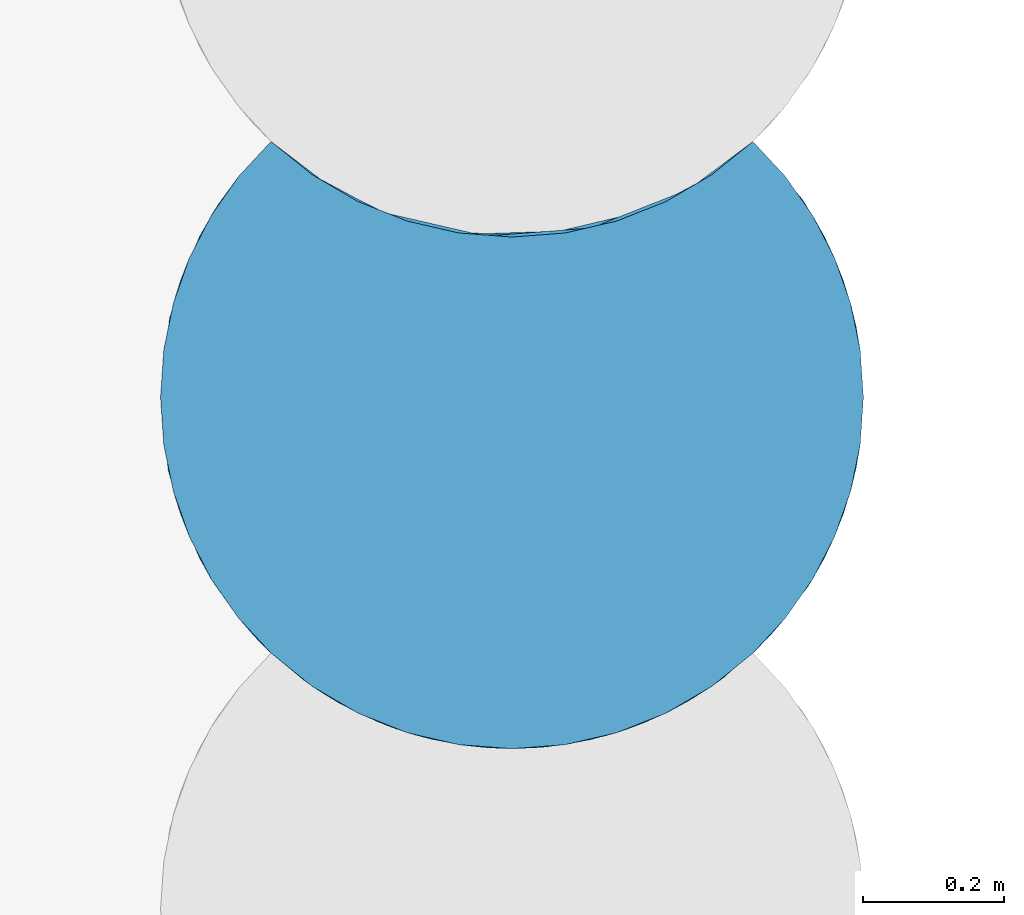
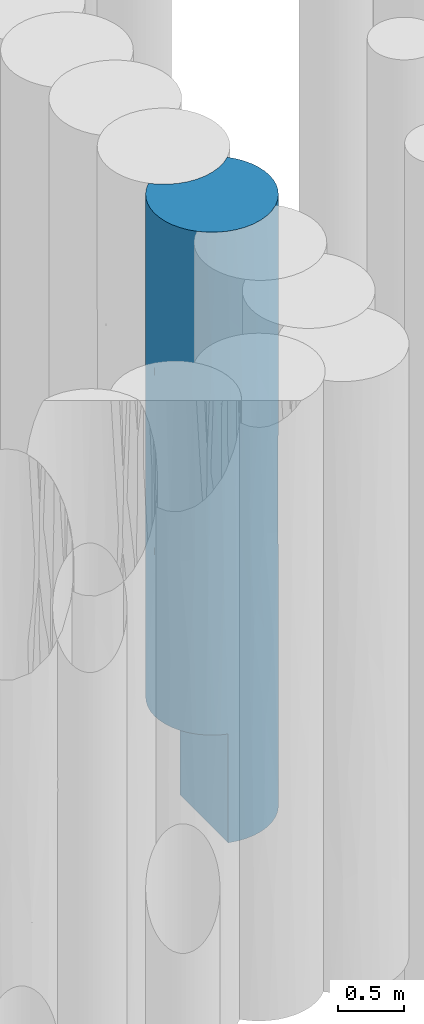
# One storey, part 54 of 104: 1 pile.
"""IFC2X3 building model written with IfcOpenShell, lengths in millimetres."""

import ifcopenshell
import ifcopenshell.guid

model = None  # the IFC model being written
_history = None  # IfcOwnerHistory: only IFC2X3 demands one
_inside = {}  # id of a spatial element -> (the spatial element, [elements in it])
_under = {}  # id of a project, library or spatial element -> (it, [spatial elements below it])
_declared = {}  # id of a project -> (the project, [libraries it declares])
_typed = {}  # id of a type object -> (the type object, [elements of that type])
_made_of = {}  # id of a material, layer set ... -> (it, [elements and type objects made of it])


def new_model(schema):
    """Start an empty IFC model of exactly this schema.

    Asked for "IFC4X3", IfcOpenShell would pick the latest addendum, in which some entities
    have other attributes; the version numbers below select the first issue.
    IFC2X3 requires an IfcOwnerHistory on every rooted entity: one is made here for all.
    """
    global model, _history
    if schema == "IFC4X3":
        model = ifcopenshell.file(schema_version=(4, 3, 0, 0))
    else:
        model = ifcopenshell.file(schema=schema)
    _inside.clear()
    _under.clear()
    _declared.clear()
    _typed.clear()
    _made_of.clear()
    _history = None
    if model.schema == "IFC2X3":
        org = make("IfcOrganization", Name="unknown")
        user = make(
            "IfcPersonAndOrganization",
            ThePerson=make("IfcPerson", FamilyName="unknown"),
            TheOrganization=org,
        )
        app = make(
            "IfcApplication",
            ApplicationDeveloper=org,
            Version="unknown",
            ApplicationFullName="unknown",
            ApplicationIdentifier="unknown",
        )
        _history = make(
            "IfcOwnerHistory",
            OwningUser=user,
            OwningApplication=app,
            ChangeAction="ADDED",
            CreationDate=0,
        )
    return model


def make(cls, **values):
    """One entity of the class cls with the attributes given. An attribute that is None is left unset."""
    return model.create_entity(
        cls, **{name: value for name, value in values.items() if value is not None}
    )


def entity(cls, *values):
    """Any entity or typed value of the class cls, its attributes in the order of the schema. None: left unset."""
    e = model.create_entity(cls)
    for i, value in enumerate(values):
        if value is not None:
            e[i] = value
    return e


def rooted(cls, **values):
    """An entity with a GlobalId (a new one), such as an element, a storey or a relation."""
    return make(cls, GlobalId=ifcopenshell.guid.new(), OwnerHistory=_history, **values)


def si_unit(unit_type, name, prefix=None):
    """IfcSIUnit, for example si_unit("LENGTHUNIT", "METRE", prefix="MILLI")."""
    return make("IfcSIUnit", UnitType=unit_type, Prefix=prefix, Name=name)


def converted_unit(unit_type, name, factor, base, dimensions=None, offset=None):
    """IfcConversionBasedUnit, such as the inch: factor (a typed value) times the base unit."""
    return make(
        "IfcConversionBasedUnit"
        if offset is None
        else "IfcConversionBasedUnitWithOffset",
        ConversionOffset=offset,
        Dimensions=None
        if dimensions is None
        else entity("IfcDimensionalExponents", *dimensions),
        UnitType=unit_type,
        Name=name,
        ConversionFactor=make(
            "IfcMeasureWithUnit", ValueComponent=factor, UnitComponent=base
        ),
    )


def derived_unit(unit_type, elements):
    """IfcDerivedUnit: a product of units, each with its exponent."""
    return make(
        "IfcDerivedUnit",
        Elements=[
            make("IfcDerivedUnitElement", Unit=unit, Exponent=power)
            for unit, power in elements
        ],
        UnitType=unit_type,
    )


def assignment(units):
    """IfcUnitAssignment: the units of a project."""
    return None if units is None else make("IfcUnitAssignment", Units=units)


def point(xyz):
    """IfcCartesianPoint."""
    return None if xyz is None else make("IfcCartesianPoint", Coordinates=xyz)


def direction(xyz):
    """IfcDirection."""
    return None if xyz is None else make("IfcDirection", DirectionRatios=xyz)


def frame(location, z_axis=None, x_axis=None):
    """IfcAxis2Placement3D, a coordinate frame: its origin and axes. An axis left out is left unset."""
    return make(
        "IfcAxis2Placement3D",
        Location=point(location),
        Axis=direction(z_axis),
        RefDirection=direction(x_axis),
    )


def origin():
    """The frame at (0, 0, 0) with its axes left unset."""
    return frame((0.0, 0.0, 0.0))


def place(relative_to, where):
    """IfcLocalPlacement: puts the frame where relative to a parent placement (None: the world)."""
    return make(
        "IfcLocalPlacement", PlacementRelTo=relative_to, RelativePlacement=where
    )


def context(
    kind, dimensions, precision=None, world=None, true_north=None, identifier=None
):
    """IfcGeometricRepresentationContext, for example the 3D "Model" context."""
    return make(
        "IfcGeometricRepresentationContext",
        ContextIdentifier=identifier,
        ContextType=kind,
        CoordinateSpaceDimension=dimensions,
        Precision=precision,
        WorldCoordinateSystem=world,
        TrueNorth=true_north,
    )


def subcontext(parent, identifier, kind, view, scale=None):
    """IfcGeometricRepresentationSubContext, for example "Body" below "Model"."""
    return make(
        "IfcGeometricRepresentationSubContext",
        ContextIdentifier=identifier,
        ContextType=kind,
        ParentContext=parent,
        TargetScale=scale,
        TargetView=view,
    )


def project(units=None, contexts=None):
    """IfcProject with its units and contexts."""
    return rooted(
        "IfcProject",
        Name="project",
        RepresentationContexts=contexts,
        UnitsInContext=assignment(units),
    )


def spatial(cls, under=None, at=None, **own):
    """A site, building, storey or space (cls), placed at a placement, below another one or the project."""
    s = rooted(cls, ObjectPlacement=at, **own)
    if under is not None:
        _under.setdefault(under.id(), (under, []))[1].append(s)
    return s


def faces_of(points, faces, orient=None, outer=None):
    """IfcFace entities. A face is a list of loops; a loop is a list of indices into points, from 0.

    orient and outer hold one flag for each loop. By default every Orientation is true, the
    first loop of a face is its IfcFaceOuterBound and the others are IfcFaceBound.
    """
    made = []
    for i, loops in enumerate(faces):
        bounds = []
        for j, loop in enumerate(loops):
            is_outer = j == 0 if outer is None else outer[i][j]
            bounds.append(
                make(
                    "IfcFaceOuterBound" if is_outer else "IfcFaceBound",
                    Bound=make("IfcPolyLoop", Polygon=[points[k] for k in loop]),
                    Orientation=True if orient is None else orient[i][j],
                )
            )
        made.append(make("IfcFace", Bounds=bounds))
    return made


def faceted_brep(points, faces, orient=None, outer=None, voids=None):
    """IfcFacetedBrep: a solid bounded by flat faces; with voids (closed shells), ...WithVoids."""
    shared = [point(p) for p in points]
    hull = make("IfcClosedShell", CfsFaces=faces_of(shared, faces, orient, outer))
    if voids is None:
        return make("IfcFacetedBrep", Outer=hull)
    return make(
        "IfcFacetedBrepWithVoids",
        Outer=hull,
        Voids=[
            make(cls, CfsFaces=faces_of(shared, fs, o, b)) for cls, fs, o, b in voids
        ],
    )


def shape(context_of_items, identifier, shape_type, items):
    """IfcShapeRepresentation: the items that make up one representation, for example the "Body"."""
    return make(
        "IfcShapeRepresentation",
        ContextOfItems=context_of_items,
        RepresentationIdentifier=identifier,
        RepresentationType=shape_type,
        Items=items,
    )


def source(mapping_origin, context_of_items, identifier, shape_type, items):
    """IfcRepresentationMap: a shape defined once, which mapped items show again and again."""
    return make(
        "IfcRepresentationMap",
        MappingOrigin=mapping_origin,
        MappedRepresentation=shape(context_of_items, identifier, shape_type, items),
    )


def transform(
    local_origin,
    x_axis=None,
    y_axis=None,
    z_axis=None,
    scale=None,
    scale2=None,
    scale3=None,
    uniform=True,
):
    """IfcCartesianTransformationOperator3D, or its non-uniform kind. x_axis, y_axis, z_axis: its Axis1, 2, 3."""
    if uniform:
        return make(
            "IfcCartesianTransformationOperator3D",
            Axis1=direction(x_axis),
            Axis2=direction(y_axis),
            LocalOrigin=point(local_origin),
            Scale=scale,
            Axis3=direction(z_axis),
        )
    return make(
        "IfcCartesianTransformationOperator3DnonUniform",
        Axis1=direction(x_axis),
        Axis2=direction(y_axis),
        LocalOrigin=point(local_origin),
        Scale=scale,
        Axis3=direction(z_axis),
        Scale2=scale2,
        Scale3=scale3,
    )


def mapped(mapping_source, mapping_target):
    """IfcMappedItem: shows the shape of a source again, moved by a transform."""
    return make(
        "IfcMappedItem", MappingSource=mapping_source, MappingTarget=mapping_target
    )


def material(Name=None, Category=None):
    """IfcMaterial."""
    return make("IfcMaterial", Name=Name, Category=Category)


def made_of(thing, what):
    """Note that an element or type object is made of a material, layer set ...; save() writes the relation."""
    if what is not None:
        _made_of.setdefault(what.id(), (what, []))[1].append(thing)
    return thing


def element(
    cls,
    number,
    at=None,
    inside=None,
    cuts=None,
    type_object=None,
    material=None,
    context=None,
    identifier="Body",
    shape_type=None,
    held_by="IfcProductDefinitionShape",
    body=None,
    shapes=None,
    **own,
):
    """One element of the class cls, such as IfcWall. Its Tag is "e" and its number.

    at: its placement. inside: the storey or other place that contains it. cuts: it is an
    opening in that element (IfcRelVoidsElement). A single representation is given by context,
    identifier, shape_type and body (its items); several are given by shapes. held_by: the class
    of the entity that holds the representations. save() writes the other relations.
    """
    e = rooted(cls, Tag="e%d" % number, ObjectPlacement=at, **own)
    if body is not None:
        shapes = [shape(context, identifier, shape_type, body)]
    if shapes is not None:
        e.Representation = make(held_by, Representations=shapes)
    if inside is not None:
        _inside.setdefault(inside.id(), (inside, []))[1].append(e)
    if cuts is not None:
        rooted(
            "IfcRelVoidsElement", RelatingBuildingElement=cuts, RelatedOpeningElement=e
        )
    if type_object is not None:
        _typed.setdefault(type_object.id(), (type_object, []))[1].append(e)
    return made_of(e, material)


def aggregate(whole, parts):
    """IfcRelAggregates: a whole, such as a stair, and the parts it consists of."""
    return rooted("IfcRelAggregates", RelatingObject=whole, RelatedObjects=parts)


def save(model, path):
    """Write the relations noted so far, then the file.

    IfcRelAggregates (storeys below a building ...), IfcRelContainedInSpatialStructure (elements
    in a storey), IfcRelDefinesByType, IfcRelAssociatesMaterial and IfcRelDeclares: one each for
    every whole, place, type object, material and project.
    """
    for whole, parts in _under.values():
        aggregate(whole, parts)
    for where, things in _inside.values():
        rooted(
            "IfcRelContainedInSpatialStructure",
            RelatedElements=things,
            RelatingStructure=where,
        )
    for kind, things in _typed.values():
        rooted("IfcRelDefinesByType", RelatedObjects=things, RelatingType=kind)
    for what, things in _made_of.values():
        rooted("IfcRelAssociatesMaterial", RelatedObjects=things, RelatingMaterial=what)
    for by, libraries in _declared.values():
        rooted("IfcRelDeclares", RelatingContext=by, RelatedDefinitions=libraries)
    model.write(path)


model = new_model("IFC2X3")

# Units and contexts
model_context = context("Model", 3, precision=0.01, world=origin(), true_north=direction((6.12303176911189e-17, 1.0)))
body_context = subcontext(model_context, "Body", "Model", "MODEL_VIEW")
ifc_project = project(units=[si_unit("LENGTHUNIT", "METRE", prefix="MILLI"), si_unit("AREAUNIT", "SQUARE_METRE", prefix="MILLI"), si_unit("VOLUMEUNIT", "CUBIC_METRE"), converted_unit("PLANEANGLEUNIT", "DEGREE", entity("IfcRatioMeasure", 0.0174532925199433), si_unit("PLANEANGLEUNIT", "RADIAN"), dimensions=[0, 0, 0, 0, 0, 0, 0]), si_unit("MASSUNIT", "GRAM", prefix="KILO"), derived_unit("MASSDENSITYUNIT", [(si_unit("MASSUNIT", "GRAM", prefix="KILO"), 1), (si_unit("LENGTHUNIT", "METRE"), -3)]), derived_unit("MOMENTOFINERTIAUNIT", [(si_unit("LENGTHUNIT", "METRE"), 4)]), si_unit("TIMEUNIT", "SECOND"), si_unit("FREQUENCYUNIT", "HERTZ"), si_unit("THERMODYNAMICTEMPERATUREUNIT", "DEGREE_CELSIUS"), derived_unit("THERMALTRANSMITTANCEUNIT", [(si_unit("MASSUNIT", "GRAM", prefix="KILO"), 1), (si_unit("THERMODYNAMICTEMPERATUREUNIT", "KELVIN"), -1), (si_unit("TIMEUNIT", "SECOND"), -3)]), derived_unit("VOLUMETRICFLOWRATEUNIT", [(si_unit("LENGTHUNIT", "METRE"), 3), (si_unit("TIMEUNIT", "SECOND"), -1)]), si_unit("ELECTRICCURRENTUNIT", "AMPERE"), si_unit("ELECTRICVOLTAGEUNIT", "VOLT"), si_unit("POWERUNIT", "WATT"), si_unit("FORCEUNIT", "NEWTON", prefix="KILO"), si_unit("ILLUMINANCEUNIT", "LUX"), si_unit("LUMINOUSFLUXUNIT", "LUMEN"), si_unit("LUMINOUSINTENSITYUNIT", "CANDELA"), derived_unit("USERDEFINED", [(si_unit("MASSUNIT", "GRAM", prefix="KILO"), -1), (si_unit("LENGTHUNIT", "METRE"), -2), (si_unit("TIMEUNIT", "SECOND"), 3), (si_unit("LUMINOUSFLUXUNIT", "LUMEN"), 1)]), derived_unit("LINEARVELOCITYUNIT", [(si_unit("LENGTHUNIT", "METRE"), 1), (si_unit("TIMEUNIT", "SECOND"), -1)]), si_unit("PRESSUREUNIT", "PASCAL"), derived_unit("USERDEFINED", [(si_unit("LENGTHUNIT", "METRE"), -2), (si_unit("MASSUNIT", "GRAM", prefix="KILO"), 1), (si_unit("TIMEUNIT", "SECOND"), -2)]), derived_unit("LINEARFORCEUNIT", [(si_unit("MASSUNIT", "GRAM", prefix="KILO"), 1), (si_unit("LENGTHUNIT", "METRE"), 1), (si_unit("TIMEUNIT", "SECOND"), -2), (si_unit("LENGTHUNIT", "METRE"), -1)]), derived_unit("PLANARFORCEUNIT", [(si_unit("MASSUNIT", "GRAM", prefix="KILO"), 1), (si_unit("LENGTHUNIT", "METRE"), 1), (si_unit("TIMEUNIT", "SECOND"), -2), (si_unit("LENGTHUNIT", "METRE"), -2)])], contexts=[model_context])

# Site, building, storey
site_placement = place(None, origin())
site = spatial("IfcSite", under=ifc_project, at=site_placement, Name="Theater aan de Parade", CompositionType="ELEMENT")
building_placement = place(site_placement, origin())
building = spatial("IfcBuilding", under=site, at=building_placement, Name="Theater aan de Parade", CompositionType="ELEMENT")
storey_placement = place(building_placement, frame((0.0, 0.0, -5520.0)))
storey = spatial("IfcBuildingStorey", under=building, at=storey_placement, Name="-2 kelder", CompositionType="ELEMENT", Elevation=-5520.0)

# Pile
ifc_material = material(Name="00_PBT_MAT_grout")
shared_shape = source(origin(), body_context, "Body", "Brep", [
    faceted_brep([(890.546518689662, 815.787773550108, 0.0), (929.522999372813, 760.202813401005, 0.0), (960.609902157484, 699.85159500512, 0.0), (983.235934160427, 635.842330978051, 0.0), (996.98227680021, 569.357471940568, 0.0), (1001.59527223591, 501.595272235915, 0.0), (996.982552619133, 433.835088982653, 0.0), (983.235228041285, 367.345680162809, 0.0), (960.607316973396, 303.332964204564, 0.0), (929.517904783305, 242.979301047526, 0.0), (890.539747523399, 187.394388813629, 0.0), (844.395954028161, 137.612924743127, 0.0), (787.16483381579, 91.1686338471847, 0.0), (723.73631667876, 53.651797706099, 0.0), (655.481623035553, 25.8653162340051, 0.0), (583.883200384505, 8.41305755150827, 0.0), (510.496193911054, 1.67450492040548, 0.0), (436.915459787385, 5.79639984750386, 0.0), (364.737142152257, 20.6900297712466, 0.0), (364.737142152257, 748.690029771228, 0.0), (436.90935192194, 733.797196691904, 0.0), (510.487049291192, 729.674342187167, 0.0), (583.871954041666, 736.411181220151, 0.0), (655.469938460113, 753.861536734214, 0.0), (723.725648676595, 781.646507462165, 0.0), (787.156098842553, 819.162556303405, 0.0), (844.383836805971, 865.59527223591, 0.0), (946.091901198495, 730.555414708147, 1043.52260300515), (844.38383680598, 865.59527223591, 1561.5380018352), (991.802660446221, 600.06717962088, 2700.88189763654), (1001.59527223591, 501.595272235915, 1561.53772532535), (973.010577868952, 668.231431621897, 1936.06593957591), (985.215355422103, 628.526809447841, 1004.42467996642), (1001.59527223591, 501.595272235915, 4058.46227467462), (1001.59527223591, 501.595272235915, 3123.0754506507), (973.010577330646, 668.231433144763, 3903.08947333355), (929.522999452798, 760.202813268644, 5620.0), (960.609902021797, 699.851595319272, 5620.0), (946.091900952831, 730.555415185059, 4676.41921628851), (913.551239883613, 784.954197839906, 2342.3065651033), (844.383836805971, 865.59527223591, 3123.07539938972), (918.831384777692, 777.120273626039, 3590.76885473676), (991.238840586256, 602.833486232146, 4676.41593122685), (844.38383680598, 865.595272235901, 2342.306559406), (890.546518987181, 815.787773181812, 5620.0), (1001.59527223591, 501.595272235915, 5620.0), (844.383836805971, 865.59527223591, 4058.46199816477), (844.383836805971, 865.59527223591, 5620.0), (959.857267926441, 701.585130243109, 2919.57770266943), (983.235934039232, 635.842331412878, 5620.0), (996.982276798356, 569.357471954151, 5620.0), (75.535501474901, 239.921674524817, 1994.39433055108), (30.1797429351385, 334.959745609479, 2218.28268253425), (42.582206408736, 303.335328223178, 1000.0), (249.344536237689, 69.8898562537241, 4477.64028937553), (158.806707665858, 137.59527223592, 5620.0), (134.878781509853, 161.714388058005, 4204.32385528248), (73.1025715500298, 243.924929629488, 4207.11061054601), (30.1799661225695, 334.959114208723, 4401.70440777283), (57.1029969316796, 272.626677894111, 3309.99064385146), (204.660366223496, 99.3146965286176, 1000.0), (227.371021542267, 83.5031049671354, 2160.49952016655), (158.806707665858, 137.59527223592, 1000.0), (308.346723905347, 40.4499604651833, 1000.0), (336.246493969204, 29.7268779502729, 2397.27757697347), (112.658831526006, 187.384443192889, 1000.0), (134.886789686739, 161.705747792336, 2410.71841601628), (663.932569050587, 28.6823816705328, 934.425625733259), (1.5952722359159, 501.595272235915, 2561.53770843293), (1.5952722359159, 501.595272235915, 1000.0), (6.20628386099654, 433.847577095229, 1000.0), (229.215704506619, 82.2989914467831, 3303.66461307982), (460.172142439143, 3.31410229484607, 994.544109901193), (547.314016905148, 3.68986316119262, 1387.25893630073), (433.611976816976, 6.23856082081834, 1852.86551730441), (364.737142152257, 20.6900297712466, 1000.0), (973.009053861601, 334.954801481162, 1936.08516455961), (946.088153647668, 272.627854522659, 1043.53969615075), (985.213296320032, 374.655889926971, 1004.4293363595), (890.546518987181, 187.402771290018, 5620.0), (946.091901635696, 272.635130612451, 4676.41921033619), (929.522999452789, 242.987731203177, 5620.0), (375.205583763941, 17.8332991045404, 4812.35143846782), (282.644601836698, 52.0837552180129, 5620.0), (254.743436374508, 66.7801723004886, 1000.0), (868.311763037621, 161.714388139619, 4258.1439262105), (844.383836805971, 137.595272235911, 5620.0), (753.846008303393, 69.8898562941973, 4800.53334285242), (112.644025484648, 187.402771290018, 5620.0), (42.5806424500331, 303.338949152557, 5620.0), (151.103232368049, 145.006811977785, 3307.53404869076), (73.6753405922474, 242.9748320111, 1000.0), (973.010578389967, 334.959114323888, 3903.08946802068), (991.238840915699, 400.357059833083, 4676.41592103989), (19.953191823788, 367.353302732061, 1000.0), (539.331900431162, 3.02135906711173, 3038.70327224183), (632.292272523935, 18.9791783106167, 2619.96956137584), (661.185093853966, 27.7481567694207, 3478.29436692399), (1.5952722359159, 501.595272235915, 5620.0), (1.5952722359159, 501.595272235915, 4123.07541686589), (6.20826767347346, 433.833072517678, 5620.0), (959.03284775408, 299.726838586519, 2919.59475995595), (991.557708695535, 401.911718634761, 2715.80956584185), (960.609902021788, 303.338949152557, 5620.0), (485.427200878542, 1.85674713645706, 3803.51644471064), (428.94373235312, 6.9016764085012, 2922.60776554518), (922.600198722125, 231.864198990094, 2115.2496757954), (19.9546104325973, 367.348213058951, 5620.0), (756.142700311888, 71.2400621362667, 1012.06034369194), (463.858644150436, 3.02135905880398, 4693.02600419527), (389.245844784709, 14.3811446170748, 3987.40728501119), (73.6675450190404, 242.987731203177, 5620.0), (217.483259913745, 90.1583214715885, 5620.0), (726.994214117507, 55.2822464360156, 2859.16529722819), (690.121590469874, 38.4993563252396, 1836.52804321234), (650.395275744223, 24.2499475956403, 5620.0), (613.944699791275, 14.3811446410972, 4259.35054825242), (794.694442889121, 96.5114831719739, 2051.18962210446), (320.066399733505, 35.7119515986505, 3323.819886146), (925.761097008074, 236.862665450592, 3732.47138341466), (554.377818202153, 4.38907472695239, 2217.52824747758), (868.306366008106, 161.708565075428, 1387.65375479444), (426.337278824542, 7.29148464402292, 5620.0), (501.595272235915, 1.5952722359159, 5620.0), (753.846008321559, 69.8898563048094, 3910.60191686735), (996.982276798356, 433.83307251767, 5620.0), (983.235934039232, 367.348213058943, 5620.0), (12.4043080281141, 398.192174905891, 3331.87000257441), (352.795268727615, 24.2499475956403, 5620.0), (576.853265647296, 7.29148464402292, 5620.0), (720.545942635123, 52.0837552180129, 5620.0), (785.707284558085, 90.1583214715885, 5620.0), (803.35254702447, 102.919279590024, 3201.16233698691), (868.30636604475, 161.708565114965, 2809.99739513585), (785.695330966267, 818.150067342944, 5620.0), (720.53458465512, 780.078223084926, 5620.0), (650.386060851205, 752.247075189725, 5620.0), (576.847851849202, 735.290660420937, 5620.0), (501.595272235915, 729.595272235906, 5620.0), (426.342692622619, 735.290660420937, 5620.0), (352.804483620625, 752.247075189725, 5620.0), (282.655959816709, 780.078223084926, 5620.0), (217.495213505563, 818.150067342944, 5620.0), (158.80670766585, 865.59527223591, 5620.0), (112.651085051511, 815.796512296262, 5620.0), (73.6726367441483, 760.211238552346, 5620.0), (42.583337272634, 699.857834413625, 5620.0), (19.9555086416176, 635.84555389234, 5620.0), (6.20818208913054, 569.356846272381, 5620.0), (326.888569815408, 761.110941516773, 2273.76175162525), (364.737142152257, 748.690029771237, 1000.0), (290.148891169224, 776.505404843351, 1000.0), (663.924183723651, 756.679503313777, 934.401469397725), (547.303786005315, 731.688923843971, 1387.23923752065), (781.045655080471, 814.977998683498, 2773.42718946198), (240.363287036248, 803.264590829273, 4116.62238301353), (317.204383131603, 764.83727067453, 4637.58130561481), (317.20438316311, 764.837270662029, 3595.66346068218), (613.937329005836, 742.379445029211, 4689.57401699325), (753.834283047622, 797.883005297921, 4689.57401709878), (234.872589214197, 806.678010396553, 2140.44524759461), (230.480195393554, 809.480269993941, 3093.76199973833), (463.861374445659, 731.021152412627, 4259.36317355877), (417.410361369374, 736.733323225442, 2996.02953362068), (438.083118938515, 733.645469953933, 1887.43420480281), (220.92046955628, 815.805887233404, 1000.0), (158.80670766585, 865.59527223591, 1000.0), (756.132996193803, 799.234322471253, 1012.04504520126), (685.986161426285, 764.837270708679, 3979.39545034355), (592.819728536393, 737.987604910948, 3801.56044529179), (158.80670766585, 865.59527223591, 4058.46229263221), (462.725547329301, 731.108417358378, 891.335237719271), (690.110388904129, 766.494796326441, 1836.4901650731), (692.005096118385, 767.270603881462, 2908.69057816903), (775.575679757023, 811.34327129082, 1951.92213266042), (771.745207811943, 808.858998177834, 3590.76885307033), (158.80670766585, 865.59527223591, 4123.07535196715), (598.023678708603, 738.981817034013, 2235.58558257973), (539.329170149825, 731.021152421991, 3038.71020903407), (158.80670766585, 865.59527223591, 2496.92458526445), (158.80670766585, 865.59527223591, 2561.53572798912), (57.0976620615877, 730.553509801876, 2936.01182480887), (77.6278143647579, 766.645446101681, 2004.37665318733), (30.1816560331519, 668.236210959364, 4223.57134425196), (14.2722960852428, 613.4716187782, 3074.84642249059), (30.1762796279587, 668.221000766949, 2043.51622702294), (42.5776896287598, 699.844758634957, 1000.0), (19.9506701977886, 635.828194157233, 1000.0), (73.6691815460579, 760.205521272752, 1000.0), (83.5815302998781, 775.939055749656, 4493.22792042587), (6.20537477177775, 569.336319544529, 1000.0), (112.651806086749, 815.797404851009, 1000.0)], [[[0, 1, 2, 3, 4, 5, 6, 7, 8, 9, 10, 11, 12, 13, 14, 15, 16, 17, 18, 19, 20, 21, 22, 23, 24, 25, 26]], [[27, 0, 28]], [[27, 2, 1]], [[29, 30, 31]], [[27, 32, 2]], [[33, 34, 35]], [[3, 2, 32]], [[36, 37, 38]], [[39, 40, 41]], [[38, 42, 35]], [[39, 28, 43, 40]], [[44, 36, 38]], [[45, 33, 42]], [[46, 47, 44]], [[0, 26, 28]], [[31, 48, 29]], [[5, 4, 30]], [[37, 49, 38]], [[4, 3, 32]], [[49, 50, 42]], [[39, 27, 28]], [[42, 38, 49]], [[46, 41, 40]], [[41, 38, 35]], [[27, 31, 32]], [[44, 38, 46]], [[0, 27, 1]], [[45, 42, 50]], [[33, 35, 42]], [[38, 41, 46]], [[48, 41, 35]], [[48, 39, 41]], [[27, 39, 31]], [[31, 30, 32]], [[4, 32, 30]], [[29, 35, 34]], [[39, 48, 31]], [[35, 29, 48]], [[30, 29, 34]], [[51, 52, 53]], [[54, 55, 56]], [[57, 58, 59]], [[60, 61, 62]], [[63, 64, 61]], [[65, 66, 51]], [[67, 14, 13]], [[68, 69, 70]], [[64, 71, 61]], [[72, 73, 74]], [[75, 18, 17]], [[76, 77, 78]], [[79, 80, 81]], [[54, 82, 83]], [[63, 61, 84]], [[85, 86, 87]], [[30, 78, 6]], [[64, 63, 75]], [[88, 56, 55]], [[66, 65, 62]], [[57, 89, 58]], [[71, 90, 61]], [[51, 53, 91]], [[92, 33, 93]], [[70, 94, 52]], [[95, 96, 97]], [[98, 99, 100]], [[100, 99, 58]], [[92, 101, 102]], [[103, 81, 80]], [[95, 104, 105]], [[106, 76, 101]], [[89, 107, 58]], [[71, 54, 56]], [[108, 13, 12]], [[109, 82, 110]], [[57, 111, 89]], [[112, 54, 83]], [[113, 96, 114]], [[87, 115, 116]], [[54, 110, 82]], [[114, 117, 113]], [[64, 118, 71]], [[64, 74, 105]], [[16, 73, 72]], [[119, 80, 85]], [[16, 15, 73]], [[74, 120, 105]], [[120, 114, 96]], [[121, 108, 11]], [[122, 109, 123]], [[106, 77, 76]], [[54, 71, 118]], [[67, 13, 108]], [[10, 121, 11]], [[54, 112, 55]], [[30, 6, 5]], [[116, 124, 87]], [[45, 125, 93]], [[93, 125, 126]], [[77, 9, 8]], [[127, 52, 59]], [[127, 99, 68]], [[78, 77, 8]], [[8, 7, 78]], [[100, 58, 107]], [[70, 52, 68]], [[34, 33, 92]], [[82, 122, 128]], [[79, 86, 85]], [[116, 109, 104]], [[127, 59, 58]], [[109, 129, 123]], [[115, 129, 116]], [[57, 88, 111]], [[108, 117, 114]], [[108, 114, 67]], [[10, 9, 77]], [[130, 87, 131]], [[131, 87, 86]], [[59, 52, 51]], [[66, 61, 90]], [[101, 92, 119]], [[92, 93, 80]], [[80, 93, 126]], [[80, 119, 92]], [[80, 79, 85]], [[132, 85, 124]], [[80, 126, 103]], [[90, 59, 66]], [[102, 30, 34]], [[15, 14, 67]], [[10, 77, 121]], [[94, 53, 52]], [[45, 93, 33]], [[11, 108, 12]], [[117, 108, 121]], [[104, 109, 110]], [[129, 109, 116]], [[87, 130, 115]], [[85, 87, 124]], [[121, 133, 117]], [[113, 132, 124]], [[85, 133, 119]], [[133, 106, 101]], [[133, 101, 119]], [[102, 101, 76]], [[133, 121, 106]], [[77, 106, 121]], [[99, 127, 58]], [[52, 127, 68]], [[132, 117, 133]], [[124, 116, 97]], [[30, 102, 76]], [[92, 102, 34]], [[6, 78, 7]], [[30, 76, 78]], [[110, 118, 105]], [[116, 104, 95]], [[110, 105, 104]], [[64, 75, 74]], [[72, 74, 75]], [[74, 73, 120]], [[114, 73, 67]], [[15, 67, 73]], [[97, 96, 113]], [[120, 96, 95]], [[124, 97, 113]], [[95, 97, 116]], [[120, 95, 105]], [[114, 120, 73]], [[122, 82, 109]], [[82, 128, 83]], [[75, 17, 72]], [[16, 72, 17]], [[117, 132, 113]], [[85, 132, 133]], [[62, 61, 66]], [[84, 61, 60]], [[105, 118, 64]], [[54, 118, 110]], [[71, 56, 90]], [[90, 56, 57]], [[90, 57, 59]], [[57, 56, 88]], [[65, 51, 91]], [[59, 51, 66]], [[134, 135, 136, 137, 138, 139, 140, 141, 142, 143, 144, 145, 146, 147, 148, 98, 100, 107, 89, 111, 88, 55, 112, 83, 128, 122, 123, 129, 115, 130, 131, 86, 79, 81, 103, 126, 125, 45, 50, 49, 37, 36, 44, 47]], [[149, 150, 151]], [[152, 24, 23]], [[20, 19, 150]], [[22, 21, 153]], [[43, 154, 40]], [[155, 156, 157]], [[158, 136, 135, 159]], [[156, 141, 140]], [[160, 161, 149]], [[157, 156, 162]], [[151, 160, 149]], [[163, 164, 149]], [[160, 165, 166]], [[162, 156, 139]], [[26, 167, 28]], [[168, 169, 158]], [[24, 167, 25]], [[170, 142, 155]], [[171, 153, 21]], [[142, 141, 156]], [[150, 171, 20]], [[161, 157, 149]], [[159, 134, 47]], [[152, 167, 24]], [[135, 134, 159]], [[150, 149, 164]], [[172, 167, 152]], [[173, 154, 174]], [[40, 175, 46]], [[142, 170, 176, 143]], [[138, 162, 139]], [[150, 164, 171]], [[173, 177, 178]], [[158, 162, 138]], [[168, 158, 159]], [[157, 162, 163]], [[161, 155, 157]], [[136, 158, 137]], [[140, 139, 156]], [[153, 177, 172]], [[22, 152, 23]], [[25, 167, 26]], [[174, 172, 173]], [[137, 158, 138]], [[178, 162, 169]], [[168, 159, 175]], [[46, 159, 47]], [[46, 175, 159]], [[168, 175, 173]], [[169, 168, 173]], [[43, 28, 174]], [[28, 167, 174]], [[175, 40, 154]], [[172, 174, 167]], [[158, 169, 162]], [[178, 169, 173]], [[156, 155, 142]], [[161, 179, 180, 170]], [[155, 161, 170]], [[160, 179, 161]], [[179, 160, 166]], [[165, 160, 151]], [[152, 153, 172]], [[153, 152, 22]], [[153, 164, 177]], [[178, 164, 163]], [[178, 163, 162]], [[163, 149, 157]], [[175, 154, 173]], [[174, 154, 43]], [[172, 177, 173]], [[178, 177, 164]], [[20, 171, 21]], [[153, 171, 164]], [[181, 176, 170, 180]], [[181, 180, 182]], [[183, 181, 184]], [[185, 182, 186]], [[185, 186, 187]], [[188, 186, 182]], [[184, 99, 183]], [[99, 98, 148]], [[144, 176, 189]], [[143, 176, 144]], [[185, 190, 68]], [[191, 182, 180]], [[184, 181, 185]], [[191, 180, 179, 166]], [[190, 185, 187]], [[148, 147, 183]], [[182, 191, 188]], [[183, 189, 181]], [[190, 69, 68]], [[146, 189, 183]], [[145, 189, 146]], [[185, 181, 182]], [[148, 183, 99]], [[184, 185, 68]], [[99, 184, 68]], [[183, 147, 146]], [[144, 189, 145]], [[181, 189, 176]], [[186, 188, 191, 166, 165, 151, 150, 75, 63, 84, 60, 62, 65, 91, 53, 94, 70, 69, 190, 187]], [[75, 150, 19, 18]]]),
])
pile_placement = place(storey_placement, frame((41760.2628578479, 40167.2179922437, -3840.0)))
element("IfcPile", 1, at=pile_placement, inside=storey, material=ifc_material, Name="17_PBT_SFO_grondkering_rond:Ø1000 (grondkering)", ObjectType="17_PBT_SFO_grondkering_rond:Ø1000 (grondkering)", PredefinedType="NOTDEFINED", context=body_context, shape_type="MappedRepresentation", body=[
    mapped(shared_shape, transform((0.0, 0.0, 0.0), scale=1.0)),
])

save(model, "model.ifc")
